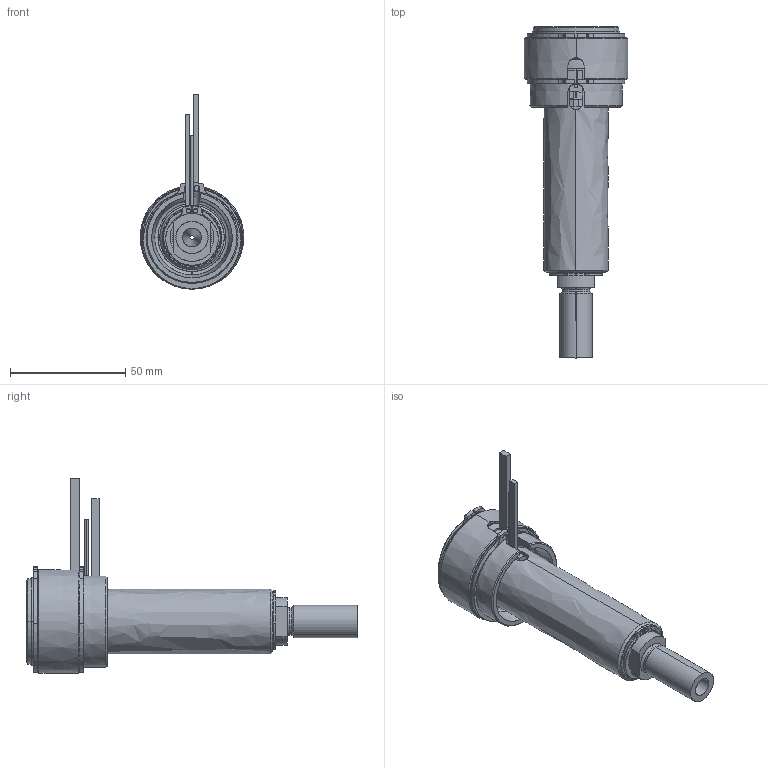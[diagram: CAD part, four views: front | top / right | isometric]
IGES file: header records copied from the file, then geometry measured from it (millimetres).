
Start section: SolidWorks IGES file using analytic representation for surfaces
Global section: file name: C:\Documents and Settings\ws-20\Desktop\TEM\UGBE4502-M-A-P-5 [Ød-2.0 P-25 ØC-10].IGS; native system: SolidWorks 2012; preprocessor: SolidWorks 2012; author: ws-20; date: 120412.154428; units: millimetre
Bounding box: 45 x 144.25 x 84.5 mm (x, y, z)
Surface area: 47809.5 mm2 (no closed solid volume)
Topology: 0 solids, 0 shells, 165 faces, 3117 edges, 3117 vertices
Faces by surface type: revolution 101, bspline 64
